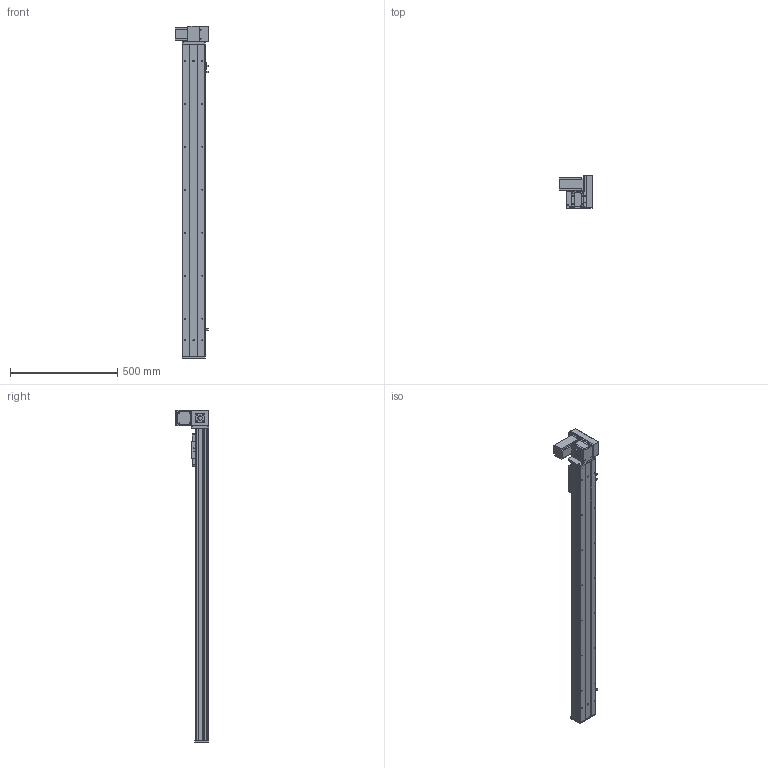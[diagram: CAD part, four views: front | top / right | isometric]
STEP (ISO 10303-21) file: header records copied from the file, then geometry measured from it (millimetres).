
FILE_DESCRIPTION (( 'STEP AP203' ), '1' );
FILE_NAME ('Y10CB-D90-S1200-UR-P400W.STEP', '2020-02-16T03:35:00', ( '微软用户' ), ( '微软中国' ), 'SwSTEP 2.0', 'SolidWorks 2017', '' );
FILE_SCHEMA (( 'CONFIG_CONTROL_DESIGN' ));
Length unit declared in the file: millimetre
Products named in the file (18): Y10C---詩湍揤啣; 10CB-耜裔; 0Cb-俋欶---; 10CB9-掛极; Y135C-陔俋离換覜結え-; Y10B-々湍喘謫眊楊擘啣--; Y100-135俋离換覜ん--; 0B-萇儂楊擘啣; Y10B--々湍喘謫眊--666; san松下电机400不带刹车----; Y10B-耜蚾蟀諉啣----; 0B-源倛裔啣; 00B-俋欶BM--; 0B-埴倛裔啣; Y10CB-D90-S1200-UR-P400W; 10CB-詩湍-; Y10CB- 掛极耜裔啣-毀---; 0CB-雄赽釱---
Assembly tree (21 placements, depth 2):
  Y10CB-D90-S1200-UR-P400W
    0CB-雄赽釱---
    0Cb-俋欶---
    Y10B-々湍喘謫眊楊擘啣--
    0B-萇儂楊擘啣
    san松下电机400不带刹车----
    0B-源倛裔啣
    0B-埴倛裔啣
    10CB-詩湍-
    Y10CB- 掛极耜裔啣-毀---  x2
    Y10C---詩湍揤啣  x2
    10CB9-掛极
    10CB-耜裔
    Y135C-陔俋离換覜結え-
    Y100-135俋离換覜ん--  x3
    Y10B--々湍喘謫眊--666
    Y10B-耜蚾蟀諉啣----
    00B-俋欶BM--
Bounding box: 157 x 155.5 x 1546 mm (x, y, z)
Volume: 3484866.8 mm3; surface area: 1587645 mm2
Topology: 21 solids, 21 shells, 1002 faces, 2683 edges, 1754 vertices
Faces by surface type: cylinder 499, plane 479, cone 24
Entity records: 31412 total; most frequent: CARTESIAN_POINT 5617, DIRECTION 5066, ORIENTED_EDGE 4836, EDGE_CURVE 2418, AXIS2_PLACEMENT_3D 1813, VERTEX_POINT 1580, LINE 1440, VECTOR 1440
